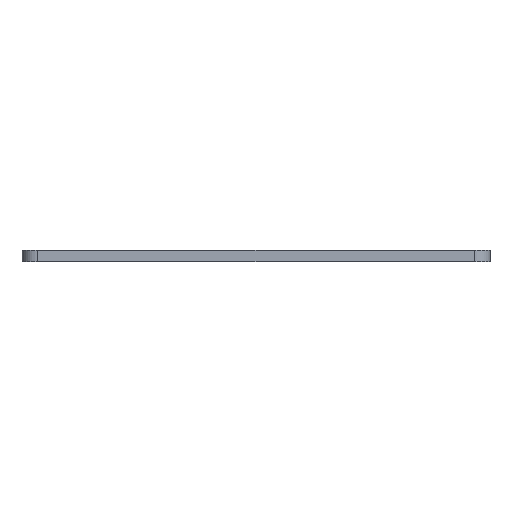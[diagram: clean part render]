
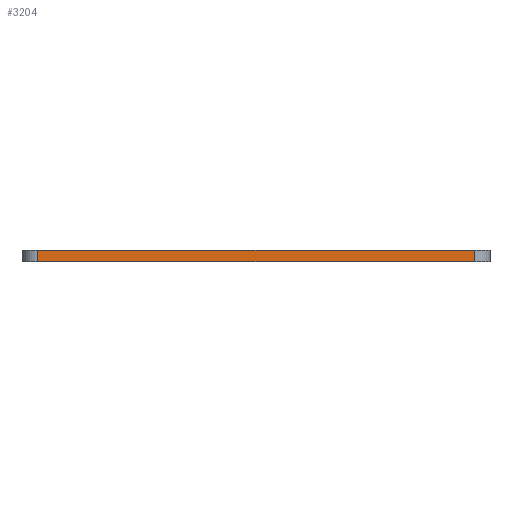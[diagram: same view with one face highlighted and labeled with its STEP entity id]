
A CAD part, front view. The second image highlights one B-rep face of the part: STEP entity #3204.
In plain terms, the highlighted planar face has unit normal (0, -1, 0).
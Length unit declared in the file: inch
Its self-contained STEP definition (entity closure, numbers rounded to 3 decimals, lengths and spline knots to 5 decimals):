
#8 = EDGE_CURVE ( 'NONE', #1755, #512, #2704, .T. ) ;
#9 = EDGE_CURVE ( 'NONE', #516, #1754, #2708, .T. ) ;
#89 = CARTESIAN_POINT ( 'NONE',  ( 5.09754, -2.93093, 0.1875 ) ) ;
#91 = CARTESIAN_POINT ( 'NONE',  ( -1.90246, -2.93093, 0. ) ) ;
#92 = DIRECTION ( 'NONE',  ( 0., 0., 1. ) ) ;
#94 = DIRECTION ( 'NONE',  ( 0., 0., -1. ) ) ;
#179 = EDGE_CURVE ( 'NONE', #512, #516, #2563, .T. ) ;
#512 = VERTEX_POINT ( 'NONE', #991 ) ;
#516 = VERTEX_POINT ( 'NONE', #995 ) ;
#661 = CARTESIAN_POINT ( 'NONE',  ( -1.40246, -2.93093, 0.1875 ) ) ;
#662 = DIRECTION ( 'NONE',  ( -1., 0., 0. ) ) ;
#991 = CARTESIAN_POINT ( 'NONE',  ( 5.09754, -2.93093, 0.1875 ) ) ;
#995 = CARTESIAN_POINT ( 'NONE',  ( -1.90246, -2.93093, 0.1875 ) ) ;
#1091 = CARTESIAN_POINT ( 'NONE',  ( -1.90246, -2.93093, 0. ) ) ;
#1092 = CARTESIAN_POINT ( 'NONE',  ( 5.09754, -2.93093, 0. ) ) ;
#1249 = CARTESIAN_POINT ( 'NONE',  ( 4.59754, -2.93093, 0. ) ) ;
#1250 = DIRECTION ( 'NONE',  ( 1., 0., 0. ) ) ;
#1578 = PLANE ( 'NONE',  #1689 ) ;
#1581 = CARTESIAN_POINT ( 'NONE',  ( 4.59754, -2.93093, 0.1875 ) ) ;
#1588 = DIRECTION ( 'NONE',  ( 0., 1., 0. ) ) ;
#1589 = DIRECTION ( 'NONE',  ( -1., 0., 0. ) ) ;
#1689 = AXIS2_PLACEMENT_3D ( 'NONE', #1581, #1588, #1589 ) ;
#1754 = VERTEX_POINT ( 'NONE', #1091 ) ;
#1755 = VERTEX_POINT ( 'NONE', #1092 ) ;
#1885 = FACE_OUTER_BOUND ( 'NONE', #1960, .T. ) ;
#1960 = EDGE_LOOP ( 'NONE', ( #2312, #2314, #2315, #2317 ) ) ;
#2261 = VECTOR ( 'NONE', #1250, 39.37008 ) ;
#2268 = LINE ( 'NONE', #1249, #2261 ) ;
#2312 = ORIENTED_EDGE ( 'NONE', *, *, #3114, .T. ) ;
#2314 = ORIENTED_EDGE ( 'NONE', *, *, #8, .T. ) ;
#2315 = ORIENTED_EDGE ( 'NONE', *, *, #179, .T. ) ;
#2317 = ORIENTED_EDGE ( 'NONE', *, *, #9, .T. ) ;
#2559 = VECTOR ( 'NONE', #662, 39.37008 ) ;
#2563 = LINE ( 'NONE', #661, #2559 ) ;
#2696 = VECTOR ( 'NONE', #94, 39.37008 ) ;
#2698 = VECTOR ( 'NONE', #92, 39.37008 ) ;
#2704 = LINE ( 'NONE', #89, #2698 ) ;
#2708 = LINE ( 'NONE', #91, #2696 ) ;
#3114 = EDGE_CURVE ( 'NONE', #1754, #1755, #2268, .T. ) ;
#3204 = ADVANCED_FACE ( 'NONE', ( #1885 ), #1578, .F. ) ;
